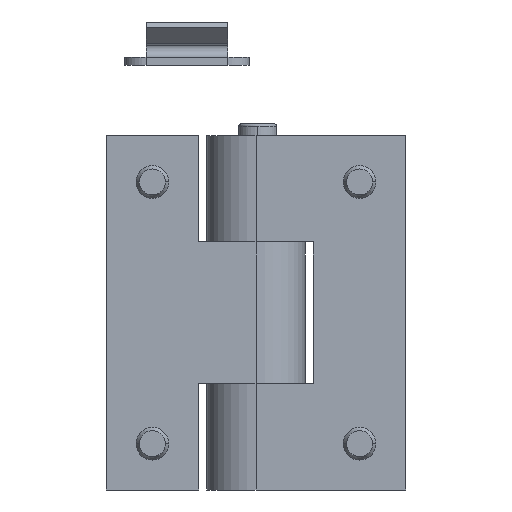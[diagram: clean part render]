
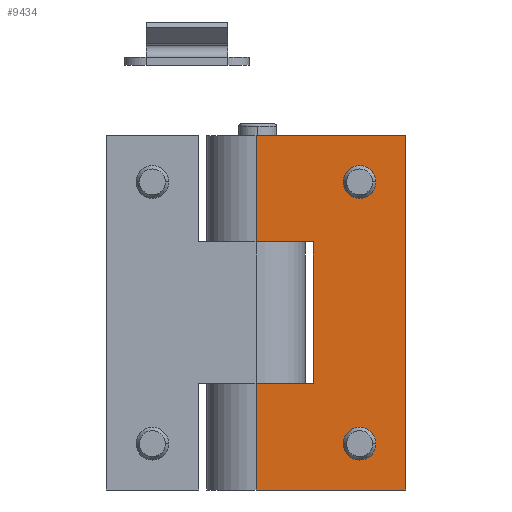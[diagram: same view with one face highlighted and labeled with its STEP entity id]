
A CAD part, front view. The second image highlights one B-rep face of the part: STEP entity #9434.
In plain terms, the highlighted planar face has unit normal (0, -1, 0).
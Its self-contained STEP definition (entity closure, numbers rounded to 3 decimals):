
#8329=CARTESIAN_POINT('',(-9.25,-1.5,13.0));
#8330=VERTEX_POINT('',#8329);
#8338=CARTESIAN_POINT('',(-9.25,-1.5,32.5));
#8339=VERTEX_POINT('',#8338);
#8340=CARTESIAN_POINT('',(-9.25,-1.5,13.0));
#8341=DIRECTION('',(0.0,0.0,1.0));
#8342=VECTOR('',#8341,19.5);
#8343=LINE('',#8340,#8342);
#8344=EDGE_CURVE('',#8330,#8339,#8343,.T.);
#8404=CARTESIAN_POINT('',(-9.25,-1.5,-32.5));
#8405=VERTEX_POINT('',#8404);
#8413=CARTESIAN_POINT('',(-9.25,-1.5,-13.0));
#8414=VERTEX_POINT('',#8413);
#8415=CARTESIAN_POINT('',(-9.25,-1.5,-32.5));
#8416=DIRECTION('',(0.0,0.0,1.0));
#8417=VECTOR('',#8416,19.5);
#8418=LINE('',#8415,#8417);
#8419=EDGE_CURVE('',#8405,#8414,#8418,.T.);
#8982=CARTESIAN_POINT('',(12.75,-1.5,-24.0));
#8983=VERTEX_POINT('',#8982);
#8990=CARTESIAN_POINT('',(6.75,-1.5,-24.0));
#8991=VERTEX_POINT('',#8990);
#8992=CARTESIAN_POINT('',(9.75,-1.5,-24.0));
#8993=DIRECTION('',(0.0,1.0,0.0));
#8994=DIRECTION('',(1.0,0.0,0.0));
#8995=AXIS2_PLACEMENT_3D('',#8992,#8993,#8994);
#8996=CIRCLE('',#8995,3.0);
#8997=EDGE_CURVE('',#8991,#8983,#8996,.T.);
#9056=CARTESIAN_POINT('',(12.75,-1.5,24.0));
#9057=VERTEX_POINT('',#9056);
#9064=CARTESIAN_POINT('',(6.75,-1.5,24.0));
#9065=VERTEX_POINT('',#9064);
#9066=CARTESIAN_POINT('',(9.75,-1.5,24.0));
#9067=DIRECTION('',(0.0,1.0,0.0));
#9068=DIRECTION('',(1.0,0.0,0.0));
#9069=AXIS2_PLACEMENT_3D('',#9066,#9067,#9068);
#9070=CIRCLE('',#9069,3.0);
#9071=EDGE_CURVE('',#9065,#9057,#9070,.T.);
#9097=CARTESIAN_POINT('',(9.75,-1.5,24.0));
#9098=DIRECTION('',(0.0,1.0,0.0));
#9099=DIRECTION('',(1.0,0.0,0.0));
#9100=AXIS2_PLACEMENT_3D('',#9097,#9098,#9099);
#9101=CIRCLE('',#9100,3.0);
#9102=EDGE_CURVE('',#9057,#9065,#9101,.T.);
#9149=CARTESIAN_POINT('',(9.75,-1.5,-24.0));
#9150=DIRECTION('',(0.0,1.0,0.0));
#9151=DIRECTION('',(1.0,0.0,0.0));
#9152=AXIS2_PLACEMENT_3D('',#9149,#9150,#9151);
#9153=CIRCLE('',#9152,3.0);
#9154=EDGE_CURVE('',#8983,#8991,#9153,.T.);
#9299=CARTESIAN_POINT('',(1.25,-1.5,13.0));
#9300=VERTEX_POINT('',#9299);
#9307=CARTESIAN_POINT('',(-9.25,-1.5,13.0));
#9308=DIRECTION('',(1.0,0.0,0.0));
#9309=VECTOR('',#9308,10.5);
#9310=LINE('',#9307,#9309);
#9311=EDGE_CURVE('',#8330,#9300,#9310,.T.);
#9353=CARTESIAN_POINT('',(1.25,-1.5,-13.0));
#9354=VERTEX_POINT('',#9353);
#9355=CARTESIAN_POINT('',(1.25,-1.5,-13.0));
#9356=DIRECTION('',(-1.0,0.0,0.0));
#9357=VECTOR('',#9356,10.5);
#9358=LINE('',#9355,#9357);
#9359=EDGE_CURVE('',#9354,#8414,#9358,.T.);
#9382=CARTESIAN_POINT('',(1.25,-1.5,13.0));
#9383=DIRECTION('',(0.0,0.0,-1.0));
#9384=VECTOR('',#9383,26.0);
#9385=LINE('',#9382,#9384);
#9386=EDGE_CURVE('',#9300,#9354,#9385,.T.);
#9392=CARTESIAN_POINT('',(18.25,-1.5,-32.5));
#9393=DIRECTION('',(0.0,-1.0,0.0));
#9394=DIRECTION('',(1.0,0.0,0.0));
#9395=AXIS2_PLACEMENT_3D('',#9392,#9393,#9394);
#9396=PLANE('',#9395);
#9397=ORIENTED_EDGE('',*,*,#9311,.T.);
#9398=ORIENTED_EDGE('',*,*,#9386,.T.);
#9399=ORIENTED_EDGE('',*,*,#9359,.T.);
#9400=ORIENTED_EDGE('',*,*,#8419,.F.);
#9401=CARTESIAN_POINT('',(18.25,-1.5,-32.5));
#9402=VERTEX_POINT('',#9401);
#9403=CARTESIAN_POINT('',(-9.25,-1.5,-32.5));
#9404=DIRECTION('',(1.0,0.0,0.0));
#9405=VECTOR('',#9404,27.5);
#9406=LINE('',#9403,#9405);
#9407=EDGE_CURVE('',#8405,#9402,#9406,.T.);
#9408=ORIENTED_EDGE('',*,*,#9407,.T.);
#9409=CARTESIAN_POINT('',(18.25,-1.5,32.5));
#9410=VERTEX_POINT('',#9409);
#9411=CARTESIAN_POINT('',(18.25,-1.5,-32.5));
#9412=DIRECTION('',(0.0,0.0,1.0));
#9413=VECTOR('',#9412,65.0);
#9414=LINE('',#9411,#9413);
#9415=EDGE_CURVE('',#9402,#9410,#9414,.T.);
#9416=ORIENTED_EDGE('',*,*,#9415,.T.);
#9417=CARTESIAN_POINT('',(18.25,-1.5,32.5));
#9418=DIRECTION('',(-1.0,0.0,0.0));
#9419=VECTOR('',#9418,27.5);
#9420=LINE('',#9417,#9419);
#9421=EDGE_CURVE('',#9410,#8339,#9420,.T.);
#9422=ORIENTED_EDGE('',*,*,#9421,.T.);
#9423=ORIENTED_EDGE('',*,*,#8344,.F.);
#9424=EDGE_LOOP('',(#9397,#9398,#9399,#9400,#9408,#9416,#9422,#9423));
#9425=FACE_OUTER_BOUND('',#9424,.T.);
#9426=ORIENTED_EDGE('',*,*,#9102,.T.);
#9427=ORIENTED_EDGE('',*,*,#9071,.T.);
#9428=EDGE_LOOP('',(#9426,#9427));
#9429=FACE_BOUND('',#9428,.T.);
#9430=ORIENTED_EDGE('',*,*,#9154,.T.);
#9431=ORIENTED_EDGE('',*,*,#8997,.T.);
#9432=EDGE_LOOP('',(#9430,#9431));
#9433=FACE_BOUND('',#9432,.T.);
#9434=ADVANCED_FACE('',(#9425,#9429,#9433),#9396,.T.);
